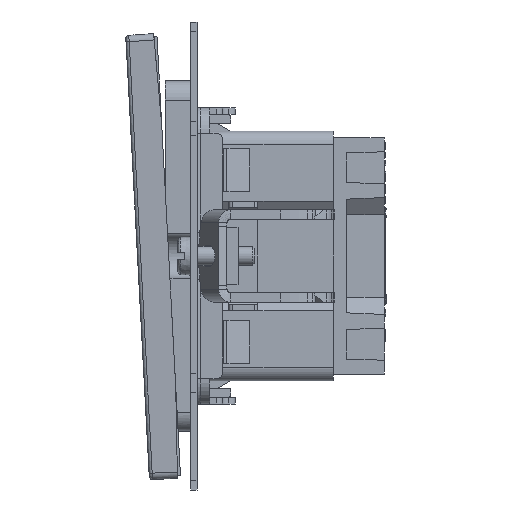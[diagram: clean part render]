
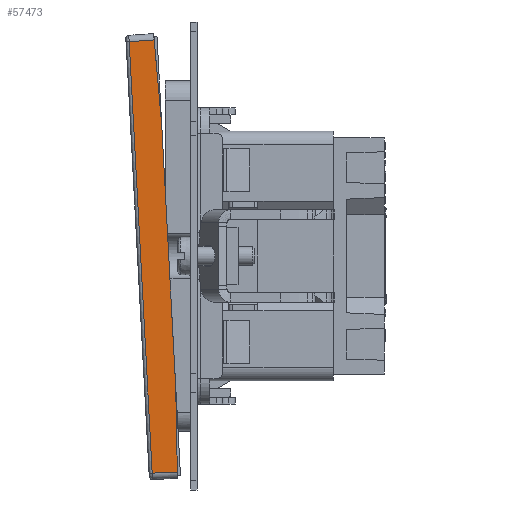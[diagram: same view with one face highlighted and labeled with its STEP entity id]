
A CAD part, left-side view. The second image highlights one B-rep face of the part: STEP entity #57473.
In plain terms, the highlighted planar face has unit normal (-1, 0.017, -0.001).
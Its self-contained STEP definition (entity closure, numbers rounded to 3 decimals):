
#256 = ORIENTED_EDGE ( 'NONE', *, *, #48158, .T. ) ;
#2933 = EDGE_CURVE ( 'NONE', #36323, #47876, #48015, .T. ) ;
#3460 = FACE_OUTER_BOUND ( 'NONE', #10803, .T. ) ;
#4079 = AXIS2_PLACEMENT_3D ( 'NONE', #16856, #20085, #12494 ) ;
#4594 = VECTOR ( 'NONE', #49275, 1000. ) ;
#4647 = CARTESIAN_POINT ( 'NONE',  ( 23.054, 54.832, 63.01 ) ) ;
#4672 = DIRECTION ( 'NONE',  ( 0., 0.053, 0.999 ) ) ;
#5788 = ORIENTED_EDGE ( 'NONE', *, *, #31899, .T. ) ;
#6585 = DIRECTION ( 'NONE',  ( -0.017, -0.999, 0.036 ) ) ;
#6706 = ORIENTED_EDGE ( 'NONE', *, *, #19036, .T. ) ;
#7561 = VERTEX_POINT ( 'NONE', #38167 ) ;
#10010 = CARTESIAN_POINT ( 'NONE',  ( 23.088, 56.704, 61.977 ) ) ;
#10055 = VERTEX_POINT ( 'NONE', #12105 ) ;
#10803 = EDGE_LOOP ( 'NONE', ( #256, #6706, #29342, #5788, #14733, #39268 ) ) ;
#11438 = VECTOR ( 'NONE', #22904, 1000. ) ;
#12105 = CARTESIAN_POINT ( 'NONE',  ( 23.165, 61.12, 61.664 ) ) ;
#12494 = DIRECTION ( 'NONE',  ( 0.017, 0.998, -0.053 ) ) ;
#13503 = LINE ( 'NONE', #10010, #18025 ) ;
#14082 = DIRECTION ( 'NONE',  ( 0.017, 0.997, -0.071 ) ) ;
#14733 = ORIENTED_EDGE ( 'NONE', *, *, #24865, .T. ) ;
#16856 = CARTESIAN_POINT ( 'NONE',  ( 23.088, 56.775, 62.975 ) ) ;
#18025 = VECTOR ( 'NONE', #14082, 1000. ) ;
#18154 = VECTOR ( 'NONE', #4672, 1000. ) ;
#19036 = EDGE_CURVE ( 'NONE', #54739, #10055, #13503, .T. ) ;
#20085 = DIRECTION ( 'NONE',  ( -1., 0.017, -0.001 ) ) ;
#20521 = CARTESIAN_POINT ( 'NONE',  ( 23.088, 53.803, 7.381 ) ) ;
#22904 = DIRECTION ( 'NONE',  ( 0.001, 0.088, 0.996 ) ) ;
#23491 = LINE ( 'NONE', #27848, #44585 ) ;
#24865 = EDGE_CURVE ( 'NONE', #34891, #36323, #39842, .T. ) ;
#27045 = CARTESIAN_POINT ( 'NONE',  ( 23.088, 56.01, 48.668 ) ) ;
#27217 = LINE ( 'NONE', #36778, #4594 ) ;
#27261 = LINE ( 'NONE', #49047, #11438 ) ;
#27848 = CARTESIAN_POINT ( 'NONE',  ( 23.109, 54.295, -5.97 ) ) ;
#29342 = ORIENTED_EDGE ( 'NONE', *, *, #30687, .T. ) ;
#30687 = EDGE_CURVE ( 'NONE', #10055, #7561, #27217, .T. ) ;
#31899 = EDGE_CURVE ( 'NONE', #7561, #34891, #23491, .T. ) ;
#34891 = VERTEX_POINT ( 'NONE', #47978 ) ;
#36323 = VERTEX_POINT ( 'NONE', #20521 ) ;
#36778 = CARTESIAN_POINT ( 'NONE',  ( 23.165, 57.445, -7.076 ) ) ;
#38167 = CARTESIAN_POINT ( 'NONE',  ( 23.165, 57.498, -6.086 ) ) ;
#39037 = CARTESIAN_POINT ( 'NONE',  ( 23.096, 57.186, 61.943 ) ) ;
#39268 = ORIENTED_EDGE ( 'NONE', *, *, #2933, .T. ) ;
#39842 = LINE ( 'NONE', #4647, #47894 ) ;
#44585 = VECTOR ( 'NONE', #6585, 1000. ) ;
#47876 = VERTEX_POINT ( 'NONE', #27045 ) ;
#47894 = VECTOR ( 'NONE', #57624, 1000. ) ;
#47978 = CARTESIAN_POINT ( 'NONE',  ( 23.096, 53.556, -5.944 ) ) ;
#48015 = LINE ( 'NONE', #56794, #18154 ) ;
#48158 = EDGE_CURVE ( 'NONE', #47876, #54739, #27261, .T. ) ;
#49047 = CARTESIAN_POINT ( 'NONE',  ( 23.097, 57.273, 62.93 ) ) ;
#49275 = DIRECTION ( 'NONE',  ( 0., -0.053, -0.999 ) ) ;
#54739 = VERTEX_POINT ( 'NONE', #39037 ) ;
#56724 = PLANE ( 'NONE',  #4079 ) ;
#56794 = CARTESIAN_POINT ( 'NONE',  ( 23.088, 56.775, 62.975 ) ) ;
#57473 = ADVANCED_FACE ( 'NONE', ( #3460 ), #56724, .T. ) ;
#57624 = DIRECTION ( 'NONE',  ( -0.001, 0.018, 1. ) ) ;
